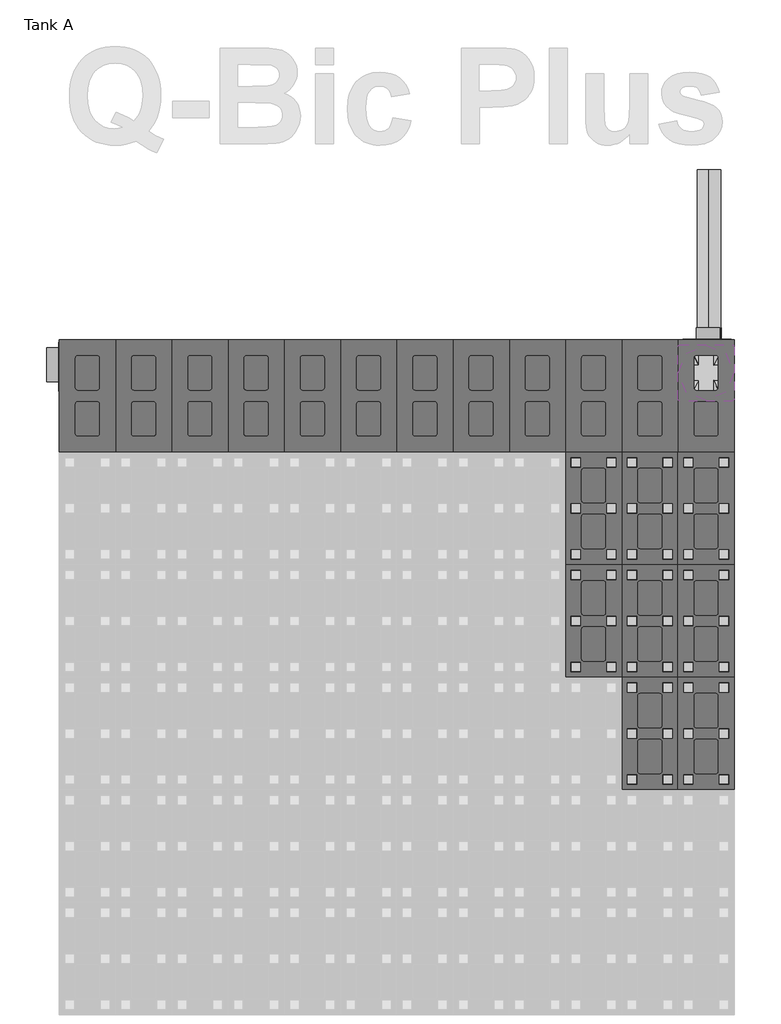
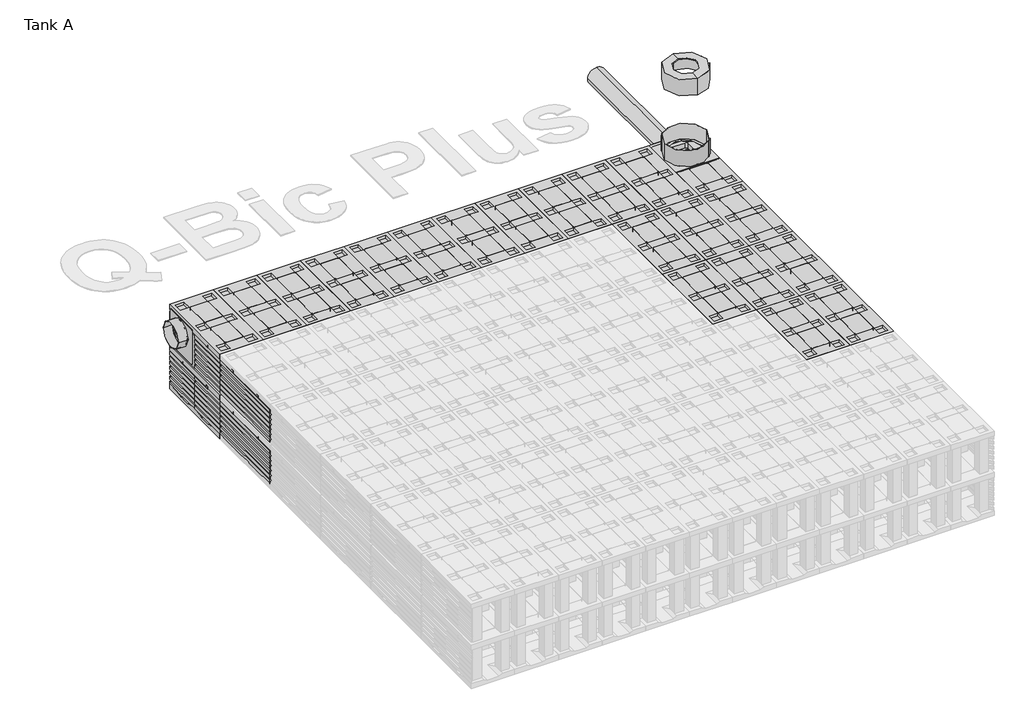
# One storey, part 4 of 6: 92 unitary equipment elements, 1 pipe fitting, 1 pipe segment.
"""IFC4 building model written with IfcOpenShell, lengths in millimetres."""

from ifc_helpers import new_model, si_unit, point, frame, frame_2d, origin, place, context, project, spatial, circle_curve, trimmed, segment, composite_curve, outline, extrude, transform, mapped, element, save
from components import cast_iron_ral9200_8530f1dc, closed_bottom_plate_7d425a97, horizontal_tw_9e0a140b, horizontal_tw_353f5b95, std_f31acf44, std_70dcea2e, std_48edb1db, std_0451be0c, std_d7962c01, vertical_tw_2c09a284

model = new_model("IFC4")

# Units and contexts
model_context = context("Model", 3, world=origin())
ifc_project = project(units=[si_unit("LENGTHUNIT", "METRE", prefix="MILLI")], contexts=[model_context])

# Site, building, storey
site = spatial("IfcSite", under=ifc_project)
building = spatial("IfcBuilding", under=site)
storey = spatial("IfcBuildingStorey", under=building, Name="Tank A", Elevation=-2300.0)

# Pipe fitting
placement = place(None, origin())
cast_iron_ral9200_shape = cast_iron_ral9200_8530f1dc(model_context)
element("IfcPipeFitting", 1, ObjectType="Wavin_PipeFitting_QBicPlusZDoNotUseAccessCap : Cast iron, RAL9200", at=placement, inside=storey, context=model_context, shape_type="MappedRepresentation", body=[
    mapped(cast_iron_ral9200_shape, transform((9386.051096, 9605.7779398, 200.0), x_axis=(0.0, -1.0, 0.0), y_axis=(1.0000000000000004, 0.0, 0.0), z_axis=(0.0, 0.0, 1.0000000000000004))),
])

# Pipe segment
element("IfcPipeSegment", 2, ObjectType="Generic", at=placement, inside=storey, context=model_context, shape_type="SweptSolid", body=[
    extrude(outline(composite_curve([segment(trimmed(circle_curve(frame_2d((-1270.0, 9416.051096)), 126.0), [point((-1270.0, 9542.051096))], [point((-1144.0, 9416.051096))], False, "CARTESIAN"), True, "CONTINUOUS"), segment(trimmed(circle_curve(frame_2d((-1270.0, 9416.051096)), 126.0), [point((-1144.0, 9416.051096))], [point((-1270.0, 9290.051096))], False, "CARTESIAN"), True, "CONTINUOUS"), segment(trimmed(circle_curve(frame_2d((-1270.0, 9416.051096)), 126.0), [point((-1270.0, 9290.051096))], [point((-1396.0, 9416.051096))], False, "CARTESIAN"), True, "CONTINUOUS"), segment(trimmed(circle_curve(frame_2d((-1270.0, 9416.051096)), 126.0), [point((-1396.0, 9416.051096))], [point((-1270.0, 9542.051096))], False, "CARTESIAN"), True, "CONTINUOUS")], self_intersect=False)), frame((0.0, 9971.7779398, 0.0), z_axis=(0.0, 1.0, 0.0), x_axis=(0.0, 0.0, 1.0)), (0.0, 0.0, 1.0), 1800.0),
])

# Unitary equipment
closed_bottom_plate_shape = closed_bottom_plate_7d425a97(model_context)
element("IfcUnitaryEquipment", 3, ObjectType="Wavin_MechanicalEquipment_QBicPlusZDoNotUseBottomPlate : Open bottom plate", at=placement, inside=storey, context=model_context, shape_type="MappedRepresentation", body=[
    mapped(closed_bottom_plate_shape, transform((2486.051096, 9960.7779398, -2230.0), x_axis=(0.0, -1.0000000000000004, 0.0), y_axis=(1.0000000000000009, 0.0, 0.0), z_axis=(0.0, 0.0, 1.0000000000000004))),
])
element("IfcUnitaryEquipment", 4, ObjectType="Wavin_MechanicalEquipment_QBicPlusZDoNotUseBottomPlate : Open bottom plate", at=placement, inside=storey, context=model_context, shape_type="MappedRepresentation", body=[
    mapped(closed_bottom_plate_shape, transform((9686.051096, 5160.7779398, -2230.0), x_axis=(0.0, 1.0, 0.0), y_axis=(-1.0000000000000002, 0.0, 0.0), z_axis=(0.0, 0.0, 1.0000000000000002))),
])
element("IfcUnitaryEquipment", 5, ObjectType="Wavin_MechanicalEquipment_QBicPlusZDoNotUseBottomPlate : Open bottom plate", at=placement, inside=storey, context=model_context, shape_type="MappedRepresentation", body=[
    mapped(closed_bottom_plate_shape, transform((9686.051096, 6360.7779398, -2230.0), x_axis=(0.0, 1.0, 0.0), y_axis=(-1.0000000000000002, 0.0, 0.0), z_axis=(0.0, 0.0, 1.0000000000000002))),
])
element("IfcUnitaryEquipment", 6, ObjectType="Wavin_MechanicalEquipment_QBicPlusZDoNotUseBottomPlate : Open bottom plate", at=placement, inside=storey, context=model_context, shape_type="MappedRepresentation", body=[
    mapped(closed_bottom_plate_shape, transform((9686.051096, 7560.7779398, -2230.0), x_axis=(0.0, 1.0, 0.0), y_axis=(-1.0000000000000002, 0.0, 0.0), z_axis=(0.0, 0.0, 1.0000000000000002))),
])
element("IfcUnitaryEquipment", 7, ObjectType="Wavin_MechanicalEquipment_QBicPlusZDoNotUseBottomPlate : Open bottom plate", at=placement, inside=storey, context=model_context, shape_type="MappedRepresentation", body=[
    mapped(closed_bottom_plate_shape, transform((9086.051096, 5160.7779398, -2230.0), x_axis=(0.0, 1.0, 0.0), y_axis=(-1.0000000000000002, 0.0, 0.0), z_axis=(0.0, 0.0, 1.0000000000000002))),
])
element("IfcUnitaryEquipment", 8, ObjectType="Wavin_MechanicalEquipment_QBicPlusZDoNotUseBottomPlate : Open bottom plate", at=placement, inside=storey, context=model_context, shape_type="MappedRepresentation", body=[
    mapped(closed_bottom_plate_shape, transform((9086.051096, 6360.7779398, -2230.0), x_axis=(0.0, 1.0, 0.0), y_axis=(-1.0000000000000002, 0.0, 0.0), z_axis=(0.0, 0.0, 1.0000000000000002))),
])
element("IfcUnitaryEquipment", 9, ObjectType="Wavin_MechanicalEquipment_QBicPlusZDoNotUseBottomPlate : Open bottom plate", at=placement, inside=storey, context=model_context, shape_type="MappedRepresentation", body=[
    mapped(closed_bottom_plate_shape, transform((9086.051096, 7560.7779398, -2230.0), x_axis=(0.0, 1.0, 0.0), y_axis=(-1.0000000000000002, 0.0, 0.0), z_axis=(0.0, 0.0, 1.0000000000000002))),
])
element("IfcUnitaryEquipment", 10, ObjectType="Wavin_MechanicalEquipment_QBicPlusZDoNotUseBottomPlate : Open bottom plate", at=placement, inside=storey, context=model_context, shape_type="MappedRepresentation", body=[
    mapped(closed_bottom_plate_shape, transform((8486.051096, 5160.7779398, -2230.0), x_axis=(0.0, 1.0, 0.0), y_axis=(-1.0000000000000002, 0.0, 0.0), z_axis=(0.0, 0.0, 1.0000000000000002))),
])
element("IfcUnitaryEquipment", 11, ObjectType="Wavin_MechanicalEquipment_QBicPlusZDoNotUseBottomPlate : Open bottom plate", at=placement, inside=storey, context=model_context, shape_type="MappedRepresentation", body=[
    mapped(closed_bottom_plate_shape, transform((8486.051096, 6360.7779398, -2230.0), x_axis=(0.0, 1.0, 0.0), y_axis=(-1.0000000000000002, 0.0, 0.0), z_axis=(0.0, 0.0, 1.0000000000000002))),
])
element("IfcUnitaryEquipment", 12, ObjectType="Wavin_MechanicalEquipment_QBicPlusZDoNotUseBottomPlate : Open bottom plate", at=placement, inside=storey, context=model_context, shape_type="MappedRepresentation", body=[
    mapped(closed_bottom_plate_shape, transform((8486.051096, 7560.7779398, -2230.0), x_axis=(0.0, 1.0, 0.0), y_axis=(-1.0000000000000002, 0.0, 0.0), z_axis=(0.0, 0.0, 1.0000000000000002))),
])
element("IfcUnitaryEquipment", 13, ObjectType="Wavin_MechanicalEquipment_QBicPlusZDoNotUseBottomPlate : Open bottom plate", at=placement, inside=storey, context=model_context, shape_type="MappedRepresentation", body=[
    mapped(closed_bottom_plate_shape, transform((3086.051096, 9960.7779398, -2230.0), x_axis=(0.0, -1.0, 0.0), y_axis=(1.0000000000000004, 0.0, 0.0), z_axis=(0.0, 0.0, 1.0000000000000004))),
])
element("IfcUnitaryEquipment", 14, ObjectType="Wavin_MechanicalEquipment_QBicPlusZDoNotUseBottomPlate : Open bottom plate", at=placement, inside=storey, context=model_context, shape_type="MappedRepresentation", body=[
    mapped(closed_bottom_plate_shape, transform((3686.051096, 9960.7779398, -2230.0), x_axis=(0.0, -1.0, 0.0), y_axis=(1.0000000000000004, 0.0, 0.0), z_axis=(0.0, 0.0, 1.0000000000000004))),
])
element("IfcUnitaryEquipment", 15, ObjectType="Wavin_MechanicalEquipment_QBicPlusZDoNotUseBottomPlate : Open bottom plate", at=placement, inside=storey, context=model_context, shape_type="MappedRepresentation", body=[
    mapped(closed_bottom_plate_shape, transform((4286.051096, 9960.7779398, -2230.0), x_axis=(0.0, -1.0, 0.0), y_axis=(1.0000000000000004, 0.0, 0.0), z_axis=(0.0, 0.0, 1.0000000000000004))),
])
element("IfcUnitaryEquipment", 16, ObjectType="Wavin_MechanicalEquipment_QBicPlusZDoNotUseBottomPlate : Open bottom plate", at=placement, inside=storey, context=model_context, shape_type="MappedRepresentation", body=[
    mapped(closed_bottom_plate_shape, transform((4886.051096, 9960.7779398, -2230.0), x_axis=(0.0, -1.0, 0.0), y_axis=(1.0000000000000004, 0.0, 0.0), z_axis=(0.0, 0.0, 1.0000000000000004))),
])
element("IfcUnitaryEquipment", 17, ObjectType="Wavin_MechanicalEquipment_QBicPlusZDoNotUseBottomPlate : Open bottom plate", at=placement, inside=storey, context=model_context, shape_type="MappedRepresentation", body=[
    mapped(closed_bottom_plate_shape, transform((5486.051096, 9960.7779398, -2230.0), x_axis=(0.0, -1.0, 0.0), y_axis=(1.0000000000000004, 0.0, 0.0), z_axis=(0.0, 0.0, 1.0000000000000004))),
])
element("IfcUnitaryEquipment", 18, ObjectType="Wavin_MechanicalEquipment_QBicPlusZDoNotUseBottomPlate : Open bottom plate", at=placement, inside=storey, context=model_context, shape_type="MappedRepresentation", body=[
    mapped(closed_bottom_plate_shape, transform((6086.051096, 9960.7779398, -2230.0), x_axis=(0.0, -1.0, 0.0), y_axis=(1.0000000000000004, 0.0, 0.0), z_axis=(0.0, 0.0, 1.0000000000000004))),
])
element("IfcUnitaryEquipment", 19, ObjectType="Wavin_MechanicalEquipment_QBicPlusZDoNotUseBottomPlate : Open bottom plate", at=placement, inside=storey, context=model_context, shape_type="MappedRepresentation", body=[
    mapped(closed_bottom_plate_shape, transform((6686.051096, 9960.7779398, -2230.0), x_axis=(0.0, -1.0, 0.0), y_axis=(1.0000000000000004, 0.0, 0.0), z_axis=(0.0, 0.0, 1.0000000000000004))),
])
element("IfcUnitaryEquipment", 20, ObjectType="Wavin_MechanicalEquipment_QBicPlusZDoNotUseBottomPlate : Open bottom plate", at=placement, inside=storey, context=model_context, shape_type="MappedRepresentation", body=[
    mapped(closed_bottom_plate_shape, transform((7286.051096, 9960.7779398, -2230.0), x_axis=(0.0, -1.0, 0.0), y_axis=(1.0000000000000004, 0.0, 0.0), z_axis=(0.0, 0.0, 1.0000000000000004))),
])
element("IfcUnitaryEquipment", 21, ObjectType="Wavin_MechanicalEquipment_QBicPlusZDoNotUseBottomPlate : Open bottom plate", at=placement, inside=storey, context=model_context, shape_type="MappedRepresentation", body=[
    mapped(closed_bottom_plate_shape, transform((7886.051096, 9960.7779398, -2230.0), x_axis=(0.0, -1.0, 0.0), y_axis=(1.0000000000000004, 0.0, 0.0), z_axis=(0.0, 0.0, 1.0000000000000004))),
])
element("IfcUnitaryEquipment", 22, ObjectType="Wavin_MechanicalEquipment_QBicPlusZDoNotUseBottomPlate : Open bottom plate", at=placement, inside=storey, context=model_context, shape_type="MappedRepresentation", body=[
    mapped(closed_bottom_plate_shape, transform((8486.051096, 9960.7779398, -2230.0), x_axis=(0.0, -1.0, 0.0), y_axis=(1.0000000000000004, 0.0, 0.0), z_axis=(0.0, 0.0, 1.0000000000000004))),
])
element("IfcUnitaryEquipment", 23, ObjectType="Wavin_MechanicalEquipment_QBicPlusZDoNotUseBottomPlate : Open bottom plate", at=placement, inside=storey, context=model_context, shape_type="MappedRepresentation", body=[
    mapped(closed_bottom_plate_shape, transform((9086.051096, 9960.7779398, -2230.0), x_axis=(0.0, -1.0, 0.0), y_axis=(1.0000000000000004, 0.0, 0.0), z_axis=(0.0, 0.0, 1.0000000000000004))),
])
horizontal_tw_shape = horizontal_tw_9e0a140b(model_context)
element("IfcUnitaryEquipment", 24, ObjectType="Wavin_MechanicalEquipment_QBicPlusZDoNotUsePipeAdaptor : horizontal TW", at=placement, inside=storey, context=model_context, shape_type="MappedRepresentation", body=[
    mapped(horizontal_tw_shape, transform((9416.051096, 9960.7779398, -1270.0), x_axis=(1.0000000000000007, 0.0, 0.0), y_axis=(0.0, 0.0, -1.0000000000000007), z_axis=(0.0, 1.0000000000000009, 0.0))),
])
horizontal_tw_2_shape = horizontal_tw_353f5b95(model_context)
element("IfcUnitaryEquipment", 25, ObjectType="Wavin_MechanicalEquipment_QBicPlusZDoNotUsePipeAdaptor : horizontal TW", at=placement, inside=storey, context=model_context, shape_type="MappedRepresentation", body=[
    mapped(horizontal_tw_2_shape, transform((2486.051096, 9690.7779398, -1307.0), x_axis=(0.0, 1.0000000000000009, 0.0), y_axis=(0.0, 0.0, -1.0000000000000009), z_axis=(-1.0000000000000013, 0.0, 0.0))),
])
std_shape = std_f31acf44(model_context)
element("IfcUnitaryEquipment", 26, ObjectType="Wavin_MechanicalEquipment_QBicPlusZDoNotUseLateralSidePlate : std", at=placement, inside=storey, context=model_context, shape_type="MappedRepresentation", body=[
    mapped(std_shape, transform((6086.051096, 9960.7779398, -2330.0), x_axis=(-1.0000000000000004, 0.0, 0.0), y_axis=(0.0, -1.0000000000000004, 0.0), z_axis=(0.0, 0.0, 1.0))),
])
element("IfcUnitaryEquipment", 27, ObjectType="Wavin_MechanicalEquipment_QBicPlusZDoNotUseLateralSidePlate : std", at=placement, inside=storey, context=model_context, shape_type="MappedRepresentation", body=[
    mapped(std_shape, transform((6086.051096, 9960.7779398, -1730.0), x_axis=(-1.0000000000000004, 0.0, 0.0), y_axis=(0.0, -1.0000000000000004, 0.0), z_axis=(0.0, 0.0, 1.0))),
])
element("IfcUnitaryEquipment", 28, ObjectType="Wavin_MechanicalEquipment_QBicPlusZDoNotUseLateralSidePlate : std", at=placement, inside=storey, context=model_context, shape_type="MappedRepresentation", body=[
    mapped(std_shape, transform((7286.051096, 9960.7779398, -2330.0), x_axis=(-1.0000000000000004, 0.0, 0.0), y_axis=(0.0, -1.0000000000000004, 0.0), z_axis=(0.0, 0.0, 1.0))),
])
element("IfcUnitaryEquipment", 29, ObjectType="Wavin_MechanicalEquipment_QBicPlusZDoNotUseLateralSidePlate : std", at=placement, inside=storey, context=model_context, shape_type="MappedRepresentation", body=[
    mapped(std_shape, transform((7286.051096, 9960.7779398, -1730.0), x_axis=(-1.0000000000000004, 0.0, 0.0), y_axis=(0.0, -1.0000000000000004, 0.0), z_axis=(0.0, 0.0, 1.0))),
])
element("IfcUnitaryEquipment", 30, ObjectType="Wavin_MechanicalEquipment_QBicPlusZDoNotUseLateralSidePlate : std", at=placement, inside=storey, context=model_context, shape_type="MappedRepresentation", body=[
    mapped(std_shape, transform((8486.051096, 9960.7779398, -2330.0), x_axis=(-1.0000000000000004, 0.0, 0.0), y_axis=(0.0, -1.0000000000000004, 0.0), z_axis=(0.0, 0.0, 1.0))),
])
element("IfcUnitaryEquipment", 31, ObjectType="Wavin_MechanicalEquipment_QBicPlusZDoNotUseLateralSidePlate : std", at=placement, inside=storey, context=model_context, shape_type="MappedRepresentation", body=[
    mapped(std_shape, transform((8486.051096, 9960.7779398, -1730.0), x_axis=(-1.0000000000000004, 0.0, 0.0), y_axis=(0.0, -1.0000000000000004, 0.0), z_axis=(0.0, 0.0, 1.0))),
])
element("IfcUnitaryEquipment", 32, ObjectType="Wavin_MechanicalEquipment_QBicPlusZDoNotUseLateralSidePlate : std", at=placement, inside=storey, context=model_context, shape_type="MappedRepresentation", body=[
    mapped(std_shape, transform((9686.051096, 6360.7779398, -2330.0), x_axis=(0.0, 1.0000000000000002, 0.0), y_axis=(-1.0000000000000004, 0.0, 0.0), z_axis=(0.0, 0.0, 1.0000000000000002))),
])
element("IfcUnitaryEquipment", 33, ObjectType="Wavin_MechanicalEquipment_QBicPlusZDoNotUseLateralSidePlate : std", at=placement, inside=storey, context=model_context, shape_type="MappedRepresentation", body=[
    mapped(std_shape, transform((9686.051096, 6360.7779398, -1730.0), x_axis=(0.0, 1.0000000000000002, 0.0), y_axis=(-1.0000000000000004, 0.0, 0.0), z_axis=(0.0, 0.0, 1.0000000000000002))),
])
element("IfcUnitaryEquipment", 34, ObjectType="Wavin_MechanicalEquipment_QBicPlusZDoNotUseLateralSidePlate : std", at=placement, inside=storey, context=model_context, shape_type="MappedRepresentation", body=[
    mapped(std_shape, transform((9686.051096, 5160.7779398, -2330.0), x_axis=(0.0, 1.0000000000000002, 0.0), y_axis=(-1.0000000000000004, 0.0, 0.0), z_axis=(0.0, 0.0, 1.0000000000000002))),
])
element("IfcUnitaryEquipment", 35, ObjectType="Wavin_MechanicalEquipment_QBicPlusZDoNotUseLateralSidePlate : std", at=placement, inside=storey, context=model_context, shape_type="MappedRepresentation", body=[
    mapped(std_shape, transform((9686.051096, 5160.7779398, -1730.0), x_axis=(0.0, 1.0000000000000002, 0.0), y_axis=(-1.0000000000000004, 0.0, 0.0), z_axis=(0.0, 0.0, 1.0000000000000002))),
])
element("IfcUnitaryEquipment", 36, ObjectType="Wavin_MechanicalEquipment_QBicPlusZDoNotUseLateralSidePlate : std", at=placement, inside=storey, context=model_context, shape_type="MappedRepresentation", body=[
    mapped(std_shape, transform((2486.051096, 8760.7779398, -2330.0), x_axis=(0.0, -1.0000000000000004, 0.0), y_axis=(1.0000000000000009, 0.0, 0.0), z_axis=(0.0, 0.0, 1.0000000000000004))),
])
element("IfcUnitaryEquipment", 37, ObjectType="Wavin_MechanicalEquipment_QBicPlusZDoNotUseLateralSidePlate : std", at=placement, inside=storey, context=model_context, shape_type="MappedRepresentation", body=[
    mapped(std_shape, transform((2486.051096, 8760.7779398, -1730.0), x_axis=(0.0, -1.0000000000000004, 0.0), y_axis=(1.0000000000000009, 0.0, 0.0), z_axis=(0.0, 0.0, 1.0000000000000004))),
])
element("IfcUnitaryEquipment", 38, ObjectType="Wavin_MechanicalEquipment_QBicPlusZDoNotUseLateralSidePlate : std", at=placement, inside=storey, context=model_context, shape_type="MappedRepresentation", body=[
    mapped(std_shape, transform((9686.051096, 7560.7779398, -2330.0), x_axis=(0.0, 1.0000000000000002, 0.0), y_axis=(-1.0000000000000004, 0.0, 0.0), z_axis=(0.0, 0.0, 1.0000000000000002))),
])
element("IfcUnitaryEquipment", 39, ObjectType="Wavin_MechanicalEquipment_QBicPlusZDoNotUseLateralSidePlate : std", at=placement, inside=storey, context=model_context, shape_type="MappedRepresentation", body=[
    mapped(std_shape, transform((9686.051096, 7560.7779398, -1730.0), x_axis=(0.0, 1.0000000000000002, 0.0), y_axis=(-1.0000000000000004, 0.0, 0.0), z_axis=(0.0, 0.0, 1.0000000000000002))),
])
element("IfcUnitaryEquipment", 40, ObjectType="Wavin_MechanicalEquipment_QBicPlusZDoNotUseLateralSidePlate : std", at=placement, inside=storey, context=model_context, shape_type="MappedRepresentation", body=[
    mapped(std_shape, transform((9686.051096, 8760.7779398, -2330.0), x_axis=(0.0, 1.0000000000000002, 0.0), y_axis=(-1.0000000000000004, 0.0, 0.0), z_axis=(0.0, 0.0, 1.0000000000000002))),
])
element("IfcUnitaryEquipment", 41, ObjectType="Wavin_MechanicalEquipment_QBicPlusZDoNotUseLateralSidePlate : std", at=placement, inside=storey, context=model_context, shape_type="MappedRepresentation", body=[
    mapped(std_shape, transform((9686.051096, 8760.7779398, -1730.0), x_axis=(0.0, 1.0000000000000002, 0.0), y_axis=(-1.0000000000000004, 0.0, 0.0), z_axis=(0.0, 0.0, 1.0000000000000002))),
])
element("IfcUnitaryEquipment", 42, ObjectType="Wavin_MechanicalEquipment_QBicPlusZDoNotUseLateralSidePlate : std", at=placement, inside=storey, context=model_context, shape_type="MappedRepresentation", body=[
    mapped(std_shape, transform((4886.051096, 9960.7779398, -2330.0), x_axis=(-1.0000000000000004, 0.0, 0.0), y_axis=(0.0, -1.0000000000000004, 0.0), z_axis=(0.0, 0.0, 1.0))),
])
element("IfcUnitaryEquipment", 43, ObjectType="Wavin_MechanicalEquipment_QBicPlusZDoNotUseLateralSidePlate : std", at=placement, inside=storey, context=model_context, shape_type="MappedRepresentation", body=[
    mapped(std_shape, transform((4886.051096, 9960.7779398, -1730.0), x_axis=(-1.0000000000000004, 0.0, 0.0), y_axis=(0.0, -1.0000000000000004, 0.0), z_axis=(0.0, 0.0, 1.0))),
])
element("IfcUnitaryEquipment", 44, ObjectType="Wavin_MechanicalEquipment_QBicPlusZDoNotUseLateralSidePlate : std", at=placement, inside=storey, context=model_context, shape_type="MappedRepresentation", body=[
    mapped(std_shape, transform((3686.051096, 9960.7779398, -2330.0), x_axis=(-1.0000000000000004, 0.0, 0.0), y_axis=(0.0, -1.0000000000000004, 0.0), z_axis=(0.0, 0.0, 1.0))),
])
element("IfcUnitaryEquipment", 45, ObjectType="Wavin_MechanicalEquipment_QBicPlusZDoNotUseLateralSidePlate : std", at=placement, inside=storey, context=model_context, shape_type="MappedRepresentation", body=[
    mapped(std_shape, transform((3686.051096, 9960.7779398, -1730.0), x_axis=(-1.0000000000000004, 0.0, 0.0), y_axis=(0.0, -1.0000000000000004, 0.0), z_axis=(0.0, 0.0, 1.0))),
])
std_2_shape = std_70dcea2e(model_context)
element("IfcUnitaryEquipment", 46, ObjectType="Wavin_MechanicalEquipment_QBicPlusZDoNotUseConnectionPlate : std", at=placement, inside=storey, context=model_context, shape_type="MappedRepresentation", body=[
    mapped(std_2_shape, transform((9686.051096, 9960.7779398, -1730.0), x_axis=(-1.0000000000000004, 0.0, 0.0), y_axis=(0.0, -1.0000000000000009, 0.0), z_axis=(0.0, 0.0, 1.0000000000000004))),
])
element("IfcUnitaryEquipment", 47, ObjectType="Wavin_MechanicalEquipment_QBicPlusZDoNotUseConnectionPlate : std", at=placement, inside=storey, context=model_context, shape_type="MappedRepresentation", body=[
    mapped(std_2_shape, transform((2486.051096, 9960.7779398, -1730.0), x_axis=(0.0, -1.0000000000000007, 0.0), y_axis=(1.0000000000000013, 0.0, 0.0), z_axis=(0.0, 0.0, 1.0000000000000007))),
])
std_3_shape = std_48edb1db(model_context)
element("IfcUnitaryEquipment", 48, ObjectType="Wavin_MechanicalEquipment_QBicPlusZDoNotUseInfiltrationUnit : std", at=placement, inside=storey, context=model_context, shape_type="MappedRepresentation", body=[
    mapped(std_3_shape, transform((9086.051096, 9960.7779398, -1670.0), x_axis=(0.0, -1.0, 0.0), y_axis=(1.0000000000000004, 0.0, 0.0), z_axis=(0.0, 0.0, 1.0000000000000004))),
])
element("IfcUnitaryEquipment", 49, ObjectType="Wavin_MechanicalEquipment_QBicPlusZDoNotUseInfiltrationUnit : std", at=placement, inside=storey, context=model_context, shape_type="MappedRepresentation", body=[
    mapped(std_3_shape, transform((9086.051096, 9960.7779398, -2270.0), x_axis=(0.0, -1.0, 0.0), y_axis=(1.0000000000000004, 0.0, 0.0), z_axis=(0.0, 0.0, 1.0000000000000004))),
])
std_4_shape = std_0451be0c(model_context)
element("IfcUnitaryEquipment", 50, ObjectType="Wavin_MechanicalEquipment_QBicPlusZDoNotUseLateralSidePlate : std", at=placement, inside=storey, context=model_context, shape_type="MappedRepresentation", body=[
    mapped(std_4_shape, transform((2486.051096, 9368.7779398, -1730.0), x_axis=(0.0, -1.0000000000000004, 0.0), y_axis=(1.0000000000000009, 0.0, 0.0), z_axis=(0.0, 0.0, 1.0000000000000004))),
])
element("IfcUnitaryEquipment", 51, ObjectType="Wavin_MechanicalEquipment_QBicPlusZDoNotUseLateralSidePlate : std", at=placement, inside=storey, context=model_context, shape_type="MappedRepresentation", body=[
    mapped(std_4_shape, transform((2486.051096, 9368.7779398, -2330.0), x_axis=(0.0, -1.0000000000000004, 0.0), y_axis=(1.0000000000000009, 0.0, 0.0), z_axis=(0.0, 0.0, 1.0000000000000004))),
])
element("IfcUnitaryEquipment", 52, ObjectType="Wavin_MechanicalEquipment_QBicPlusZDoNotUseLateralSidePlate : std", at=placement, inside=storey, context=model_context, shape_type="MappedRepresentation", body=[
    mapped(std_4_shape, transform((9094.051096, 9960.7779398, -1730.0), x_axis=(-1.0000000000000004, 0.0, 0.0), y_axis=(0.0, -1.0000000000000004, 0.0), z_axis=(0.0, 0.0, 1.0))),
])
element("IfcUnitaryEquipment", 53, ObjectType="Wavin_MechanicalEquipment_QBicPlusZDoNotUseLateralSidePlate : std", at=placement, inside=storey, context=model_context, shape_type="MappedRepresentation", body=[
    mapped(std_4_shape, transform((9094.051096, 9960.7779398, -2330.0), x_axis=(-1.0000000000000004, 0.0, 0.0), y_axis=(0.0, -1.0000000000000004, 0.0), z_axis=(0.0, 0.0, 1.0))),
])
element("IfcUnitaryEquipment", 54, ObjectType="Wavin_MechanicalEquipment_QBicPlusZDoNotUseLateralSidePlate : std", at=placement, inside=storey, context=model_context, shape_type="MappedRepresentation", body=[
    mapped(std_4_shape, transform((9686.051096, 9960.7779398, -2330.0), x_axis=(-1.0000000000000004, 0.0, 0.0), y_axis=(0.0, -1.0000000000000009, 0.0), z_axis=(0.0, 0.0, 1.0000000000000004))),
])
element("IfcUnitaryEquipment", 55, ObjectType="Wavin_MechanicalEquipment_QBicPlusZDoNotUseLateralSidePlate : std", at=placement, inside=storey, context=model_context, shape_type="MappedRepresentation", body=[
    mapped(std_4_shape, transform((2486.051096, 9960.7779398, -2330.0), x_axis=(0.0, -1.0000000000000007, 0.0), y_axis=(1.0000000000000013, 0.0, 0.0), z_axis=(0.0, 0.0, 1.0000000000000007))),
])
std_5_shape = std_d7962c01(model_context)
element("IfcUnitaryEquipment", 56, ObjectType="Wavin_MechanicalEquipment_QBicPlusZDoNotUseInfiltrationUnit : std", at=placement, inside=storey, context=model_context, shape_type="MappedRepresentation", body=[
    mapped(std_5_shape, transform((2486.051096, 9960.7779398, -1670.0), x_axis=(0.0, -1.0000000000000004, 0.0), y_axis=(1.0000000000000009, 0.0, 0.0), z_axis=(0.0, 0.0, 1.0000000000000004))),
])
element("IfcUnitaryEquipment", 57, ObjectType="Wavin_MechanicalEquipment_QBicPlusZDoNotUseInfiltrationUnit : std", at=placement, inside=storey, context=model_context, shape_type="MappedRepresentation", body=[
    mapped(std_5_shape, transform((2486.051096, 9960.7779398, -2270.0), x_axis=(0.0, -1.0000000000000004, 0.0), y_axis=(1.0000000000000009, 0.0, 0.0), z_axis=(0.0, 0.0, 1.0000000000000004))),
])
element("IfcUnitaryEquipment", 58, ObjectType="Wavin_MechanicalEquipment_QBicPlusZDoNotUseInfiltrationUnit : std", at=placement, inside=storey, context=model_context, shape_type="MappedRepresentation", body=[
    mapped(std_5_shape, transform((9686.051096, 5160.7779398, -1670.0), x_axis=(0.0, 1.0, 0.0), y_axis=(-1.0000000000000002, 0.0, 0.0), z_axis=(0.0, 0.0, 1.0000000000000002))),
])
element("IfcUnitaryEquipment", 59, ObjectType="Wavin_MechanicalEquipment_QBicPlusZDoNotUseInfiltrationUnit : std", at=placement, inside=storey, context=model_context, shape_type="MappedRepresentation", body=[
    mapped(std_5_shape, transform((9686.051096, 5160.7779398, -2270.0), x_axis=(0.0, 1.0, 0.0), y_axis=(-1.0000000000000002, 0.0, 0.0), z_axis=(0.0, 0.0, 1.0000000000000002))),
])
element("IfcUnitaryEquipment", 60, ObjectType="Wavin_MechanicalEquipment_QBicPlusZDoNotUseInfiltrationUnit : std", at=placement, inside=storey, context=model_context, shape_type="MappedRepresentation", body=[
    mapped(std_5_shape, transform((9686.051096, 6360.7779398, -1670.0), x_axis=(0.0, 1.0, 0.0), y_axis=(-1.0000000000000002, 0.0, 0.0), z_axis=(0.0, 0.0, 1.0000000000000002))),
])
element("IfcUnitaryEquipment", 61, ObjectType="Wavin_MechanicalEquipment_QBicPlusZDoNotUseInfiltrationUnit : std", at=placement, inside=storey, context=model_context, shape_type="MappedRepresentation", body=[
    mapped(std_5_shape, transform((9686.051096, 6360.7779398, -2270.0), x_axis=(0.0, 1.0, 0.0), y_axis=(-1.0000000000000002, 0.0, 0.0), z_axis=(0.0, 0.0, 1.0000000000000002))),
])
element("IfcUnitaryEquipment", 62, ObjectType="Wavin_MechanicalEquipment_QBicPlusZDoNotUseInfiltrationUnit : std", at=placement, inside=storey, context=model_context, shape_type="MappedRepresentation", body=[
    mapped(std_5_shape, transform((9686.051096, 7560.7779398, -1670.0), x_axis=(0.0, 1.0, 0.0), y_axis=(-1.0000000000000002, 0.0, 0.0), z_axis=(0.0, 0.0, 1.0000000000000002))),
])
element("IfcUnitaryEquipment", 63, ObjectType="Wavin_MechanicalEquipment_QBicPlusZDoNotUseInfiltrationUnit : std", at=placement, inside=storey, context=model_context, shape_type="MappedRepresentation", body=[
    mapped(std_5_shape, transform((9686.051096, 7560.7779398, -2270.0), x_axis=(0.0, 1.0, 0.0), y_axis=(-1.0000000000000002, 0.0, 0.0), z_axis=(0.0, 0.0, 1.0000000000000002))),
])
element("IfcUnitaryEquipment", 64, ObjectType="Wavin_MechanicalEquipment_QBicPlusZDoNotUseInfiltrationUnit : std", at=placement, inside=storey, context=model_context, shape_type="MappedRepresentation", body=[
    mapped(std_5_shape, transform((9086.051096, 5160.7779398, -1670.0), x_axis=(0.0, 1.0, 0.0), y_axis=(-1.0000000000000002, 0.0, 0.0), z_axis=(0.0, 0.0, 1.0000000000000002))),
])
element("IfcUnitaryEquipment", 65, ObjectType="Wavin_MechanicalEquipment_QBicPlusZDoNotUseInfiltrationUnit : std", at=placement, inside=storey, context=model_context, shape_type="MappedRepresentation", body=[
    mapped(std_5_shape, transform((9086.051096, 5160.7779398, -2270.0), x_axis=(0.0, 1.0, 0.0), y_axis=(-1.0000000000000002, 0.0, 0.0), z_axis=(0.0, 0.0, 1.0000000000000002))),
])
element("IfcUnitaryEquipment", 66, ObjectType="Wavin_MechanicalEquipment_QBicPlusZDoNotUseInfiltrationUnit : std", at=placement, inside=storey, context=model_context, shape_type="MappedRepresentation", body=[
    mapped(std_5_shape, transform((9086.051096, 6360.7779398, -1670.0), x_axis=(0.0, 1.0, 0.0), y_axis=(-1.0000000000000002, 0.0, 0.0), z_axis=(0.0, 0.0, 1.0000000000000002))),
])
element("IfcUnitaryEquipment", 67, ObjectType="Wavin_MechanicalEquipment_QBicPlusZDoNotUseInfiltrationUnit : std", at=placement, inside=storey, context=model_context, shape_type="MappedRepresentation", body=[
    mapped(std_5_shape, transform((9086.051096, 6360.7779398, -2270.0), x_axis=(0.0, 1.0, 0.0), y_axis=(-1.0000000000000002, 0.0, 0.0), z_axis=(0.0, 0.0, 1.0000000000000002))),
])
element("IfcUnitaryEquipment", 68, ObjectType="Wavin_MechanicalEquipment_QBicPlusZDoNotUseInfiltrationUnit : std", at=placement, inside=storey, context=model_context, shape_type="MappedRepresentation", body=[
    mapped(std_5_shape, transform((9086.051096, 7560.7779398, -1670.0), x_axis=(0.0, 1.0, 0.0), y_axis=(-1.0000000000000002, 0.0, 0.0), z_axis=(0.0, 0.0, 1.0000000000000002))),
])
element("IfcUnitaryEquipment", 69, ObjectType="Wavin_MechanicalEquipment_QBicPlusZDoNotUseInfiltrationUnit : std", at=placement, inside=storey, context=model_context, shape_type="MappedRepresentation", body=[
    mapped(std_5_shape, transform((9086.051096, 7560.7779398, -2270.0), x_axis=(0.0, 1.0, 0.0), y_axis=(-1.0000000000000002, 0.0, 0.0), z_axis=(0.0, 0.0, 1.0000000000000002))),
])
element("IfcUnitaryEquipment", 70, ObjectType="Wavin_MechanicalEquipment_QBicPlusZDoNotUseInfiltrationUnit : std", at=placement, inside=storey, context=model_context, shape_type="MappedRepresentation", body=[
    mapped(std_5_shape, transform((8486.051096, 6360.7779398, -1670.0), x_axis=(0.0, 1.0, 0.0), y_axis=(-1.0000000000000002, 0.0, 0.0), z_axis=(0.0, 0.0, 1.0000000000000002))),
])
element("IfcUnitaryEquipment", 71, ObjectType="Wavin_MechanicalEquipment_QBicPlusZDoNotUseInfiltrationUnit : std", at=placement, inside=storey, context=model_context, shape_type="MappedRepresentation", body=[
    mapped(std_5_shape, transform((8486.051096, 6360.7779398, -2270.0), x_axis=(0.0, 1.0, 0.0), y_axis=(-1.0000000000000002, 0.0, 0.0), z_axis=(0.0, 0.0, 1.0000000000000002))),
])
element("IfcUnitaryEquipment", 72, ObjectType="Wavin_MechanicalEquipment_QBicPlusZDoNotUseInfiltrationUnit : std", at=placement, inside=storey, context=model_context, shape_type="MappedRepresentation", body=[
    mapped(std_5_shape, transform((8486.051096, 7560.7779398, -1670.0), x_axis=(0.0, 1.0, 0.0), y_axis=(-1.0000000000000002, 0.0, 0.0), z_axis=(0.0, 0.0, 1.0000000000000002))),
])
element("IfcUnitaryEquipment", 73, ObjectType="Wavin_MechanicalEquipment_QBicPlusZDoNotUseInfiltrationUnit : std", at=placement, inside=storey, context=model_context, shape_type="MappedRepresentation", body=[
    mapped(std_5_shape, transform((8486.051096, 7560.7779398, -2270.0), x_axis=(0.0, 1.0, 0.0), y_axis=(-1.0000000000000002, 0.0, 0.0), z_axis=(0.0, 0.0, 1.0000000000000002))),
])
element("IfcUnitaryEquipment", 74, ObjectType="Wavin_MechanicalEquipment_QBicPlusZDoNotUseInfiltrationUnit : std", at=placement, inside=storey, context=model_context, shape_type="MappedRepresentation", body=[
    mapped(std_5_shape, transform((3086.051096, 9960.7779398, -1670.0), x_axis=(0.0, -1.0, 0.0), y_axis=(1.0000000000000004, 0.0, 0.0), z_axis=(0.0, 0.0, 1.0000000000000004))),
])
element("IfcUnitaryEquipment", 75, ObjectType="Wavin_MechanicalEquipment_QBicPlusZDoNotUseInfiltrationUnit : std", at=placement, inside=storey, context=model_context, shape_type="MappedRepresentation", body=[
    mapped(std_5_shape, transform((3086.051096, 9960.7779398, -2270.0), x_axis=(0.0, -1.0, 0.0), y_axis=(1.0000000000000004, 0.0, 0.0), z_axis=(0.0, 0.0, 1.0000000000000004))),
])
element("IfcUnitaryEquipment", 76, ObjectType="Wavin_MechanicalEquipment_QBicPlusZDoNotUseInfiltrationUnit : std", at=placement, inside=storey, context=model_context, shape_type="MappedRepresentation", body=[
    mapped(std_5_shape, transform((3686.051096, 9960.7779398, -1670.0), x_axis=(0.0, -1.0, 0.0), y_axis=(1.0000000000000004, 0.0, 0.0), z_axis=(0.0, 0.0, 1.0000000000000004))),
])
element("IfcUnitaryEquipment", 77, ObjectType="Wavin_MechanicalEquipment_QBicPlusZDoNotUseInfiltrationUnit : std", at=placement, inside=storey, context=model_context, shape_type="MappedRepresentation", body=[
    mapped(std_5_shape, transform((3686.051096, 9960.7779398, -2270.0), x_axis=(0.0, -1.0, 0.0), y_axis=(1.0000000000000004, 0.0, 0.0), z_axis=(0.0, 0.0, 1.0000000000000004))),
])
element("IfcUnitaryEquipment", 78, ObjectType="Wavin_MechanicalEquipment_QBicPlusZDoNotUseInfiltrationUnit : std", at=placement, inside=storey, context=model_context, shape_type="MappedRepresentation", body=[
    mapped(std_5_shape, transform((4286.051096, 9960.7779398, -1670.0), x_axis=(0.0, -1.0, 0.0), y_axis=(1.0000000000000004, 0.0, 0.0), z_axis=(0.0, 0.0, 1.0000000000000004))),
])
element("IfcUnitaryEquipment", 79, ObjectType="Wavin_MechanicalEquipment_QBicPlusZDoNotUseInfiltrationUnit : std", at=placement, inside=storey, context=model_context, shape_type="MappedRepresentation", body=[
    mapped(std_5_shape, transform((4286.051096, 9960.7779398, -2270.0), x_axis=(0.0, -1.0, 0.0), y_axis=(1.0000000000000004, 0.0, 0.0), z_axis=(0.0, 0.0, 1.0000000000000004))),
])
element("IfcUnitaryEquipment", 80, ObjectType="Wavin_MechanicalEquipment_QBicPlusZDoNotUseInfiltrationUnit : std", at=placement, inside=storey, context=model_context, shape_type="MappedRepresentation", body=[
    mapped(std_5_shape, transform((4886.051096, 9960.7779398, -1670.0), x_axis=(0.0, -1.0, 0.0), y_axis=(1.0000000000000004, 0.0, 0.0), z_axis=(0.0, 0.0, 1.0000000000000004))),
])
element("IfcUnitaryEquipment", 81, ObjectType="Wavin_MechanicalEquipment_QBicPlusZDoNotUseInfiltrationUnit : std", at=placement, inside=storey, context=model_context, shape_type="MappedRepresentation", body=[
    mapped(std_5_shape, transform((4886.051096, 9960.7779398, -2270.0), x_axis=(0.0, -1.0, 0.0), y_axis=(1.0000000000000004, 0.0, 0.0), z_axis=(0.0, 0.0, 1.0000000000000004))),
])
element("IfcUnitaryEquipment", 82, ObjectType="Wavin_MechanicalEquipment_QBicPlusZDoNotUseInfiltrationUnit : std", at=placement, inside=storey, context=model_context, shape_type="MappedRepresentation", body=[
    mapped(std_5_shape, transform((5486.051096, 9960.7779398, -1670.0), x_axis=(0.0, -1.0, 0.0), y_axis=(1.0000000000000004, 0.0, 0.0), z_axis=(0.0, 0.0, 1.0000000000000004))),
])
element("IfcUnitaryEquipment", 83, ObjectType="Wavin_MechanicalEquipment_QBicPlusZDoNotUseInfiltrationUnit : std", at=placement, inside=storey, context=model_context, shape_type="MappedRepresentation", body=[
    mapped(std_5_shape, transform((5486.051096, 9960.7779398, -2270.0), x_axis=(0.0, -1.0, 0.0), y_axis=(1.0000000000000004, 0.0, 0.0), z_axis=(0.0, 0.0, 1.0000000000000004))),
])
element("IfcUnitaryEquipment", 84, ObjectType="Wavin_MechanicalEquipment_QBicPlusZDoNotUseInfiltrationUnit : std", at=placement, inside=storey, context=model_context, shape_type="MappedRepresentation", body=[
    mapped(std_5_shape, transform((6086.051096, 9960.7779398, -1670.0), x_axis=(0.0, -1.0, 0.0), y_axis=(1.0000000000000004, 0.0, 0.0), z_axis=(0.0, 0.0, 1.0000000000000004))),
])
element("IfcUnitaryEquipment", 85, ObjectType="Wavin_MechanicalEquipment_QBicPlusZDoNotUseInfiltrationUnit : std", at=placement, inside=storey, context=model_context, shape_type="MappedRepresentation", body=[
    mapped(std_5_shape, transform((6086.051096, 9960.7779398, -2270.0), x_axis=(0.0, -1.0, 0.0), y_axis=(1.0000000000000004, 0.0, 0.0), z_axis=(0.0, 0.0, 1.0000000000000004))),
])
element("IfcUnitaryEquipment", 86, ObjectType="Wavin_MechanicalEquipment_QBicPlusZDoNotUseInfiltrationUnit : std", at=placement, inside=storey, context=model_context, shape_type="MappedRepresentation", body=[
    mapped(std_5_shape, transform((6686.051096, 9960.7779398, -1670.0), x_axis=(0.0, -1.0, 0.0), y_axis=(1.0000000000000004, 0.0, 0.0), z_axis=(0.0, 0.0, 1.0000000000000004))),
])
element("IfcUnitaryEquipment", 87, ObjectType="Wavin_MechanicalEquipment_QBicPlusZDoNotUseInfiltrationUnit : std", at=placement, inside=storey, context=model_context, shape_type="MappedRepresentation", body=[
    mapped(std_5_shape, transform((6686.051096, 9960.7779398, -2270.0), x_axis=(0.0, -1.0, 0.0), y_axis=(1.0000000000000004, 0.0, 0.0), z_axis=(0.0, 0.0, 1.0000000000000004))),
])
element("IfcUnitaryEquipment", 88, ObjectType="Wavin_MechanicalEquipment_QBicPlusZDoNotUseInfiltrationUnit : std", at=placement, inside=storey, context=model_context, shape_type="MappedRepresentation", body=[
    mapped(std_5_shape, transform((7286.051096, 9960.7779398, -1670.0), x_axis=(0.0, -1.0, 0.0), y_axis=(1.0000000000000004, 0.0, 0.0), z_axis=(0.0, 0.0, 1.0000000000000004))),
])
element("IfcUnitaryEquipment", 89, ObjectType="Wavin_MechanicalEquipment_QBicPlusZDoNotUseInfiltrationUnit : std", at=placement, inside=storey, context=model_context, shape_type="MappedRepresentation", body=[
    mapped(std_5_shape, transform((7286.051096, 9960.7779398, -2270.0), x_axis=(0.0, -1.0, 0.0), y_axis=(1.0000000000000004, 0.0, 0.0), z_axis=(0.0, 0.0, 1.0000000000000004))),
])
element("IfcUnitaryEquipment", 90, ObjectType="Wavin_MechanicalEquipment_QBicPlusZDoNotUseInfiltrationUnit : std", at=placement, inside=storey, context=model_context, shape_type="MappedRepresentation", body=[
    mapped(std_5_shape, transform((7886.051096, 9960.7779398, -1670.0), x_axis=(0.0, -1.0, 0.0), y_axis=(1.0000000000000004, 0.0, 0.0), z_axis=(0.0, 0.0, 1.0000000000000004))),
])
element("IfcUnitaryEquipment", 91, ObjectType="Wavin_MechanicalEquipment_QBicPlusZDoNotUseInfiltrationUnit : std", at=placement, inside=storey, context=model_context, shape_type="MappedRepresentation", body=[
    mapped(std_5_shape, transform((7886.051096, 9960.7779398, -2270.0), x_axis=(0.0, -1.0, 0.0), y_axis=(1.0000000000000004, 0.0, 0.0), z_axis=(0.0, 0.0, 1.0000000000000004))),
])
element("IfcUnitaryEquipment", 92, ObjectType="Wavin_MechanicalEquipment_QBicPlusZDoNotUseInfiltrationUnit : std", at=placement, inside=storey, context=model_context, shape_type="MappedRepresentation", body=[
    mapped(std_5_shape, transform((8486.051096, 9960.7779398, -1670.0), x_axis=(0.0, -1.0, 0.0), y_axis=(1.0000000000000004, 0.0, 0.0), z_axis=(0.0, 0.0, 1.0000000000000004))),
])
element("IfcUnitaryEquipment", 93, ObjectType="Wavin_MechanicalEquipment_QBicPlusZDoNotUseInfiltrationUnit : std", at=placement, inside=storey, context=model_context, shape_type="MappedRepresentation", body=[
    mapped(std_5_shape, transform((8486.051096, 9960.7779398, -2270.0), x_axis=(0.0, -1.0, 0.0), y_axis=(1.0000000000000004, 0.0, 0.0), z_axis=(0.0, 0.0, 1.0000000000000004))),
])
vertical_tw_shape = vertical_tw_2c09a284(model_context)
element("IfcUnitaryEquipment", 94, ObjectType="Wavin_MechanicalEquipment_QBicPlusZDoNotUsePipeAdaptor : vertical TW", at=placement, inside=storey, context=model_context, shape_type="MappedRepresentation", body=[
    mapped(vertical_tw_shape, transform((9386.051096, 9605.7779398, -1070.0), x_axis=(1.0000000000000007, 0.0, 0.0), y_axis=(0.0, 1.0000000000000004, 0.0), z_axis=(0.0, 0.0, 1.0000000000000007))),
])

save(model, "model.ifc")
